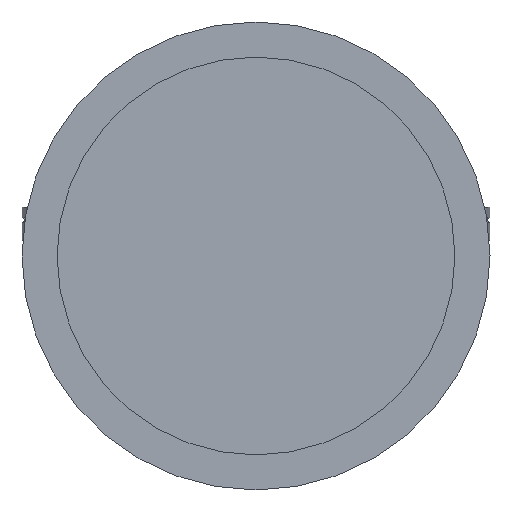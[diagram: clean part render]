
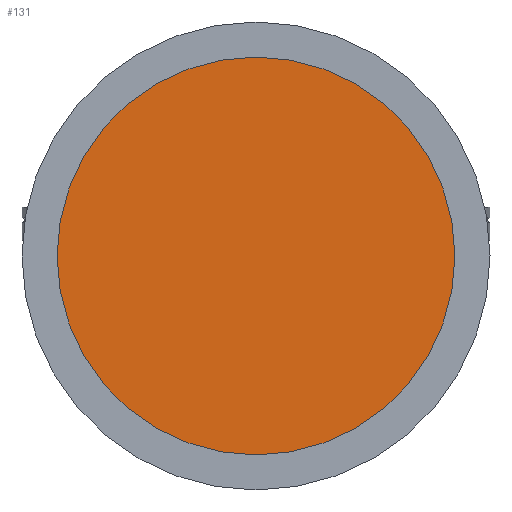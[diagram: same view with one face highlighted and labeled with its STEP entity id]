
A CAD part, left-side view. The second image highlights one B-rep face of the part: STEP entity #131.
In plain terms, the highlighted planar face has unit normal (-1, 0, 0).
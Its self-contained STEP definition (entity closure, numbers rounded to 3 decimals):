
#131 = ADVANCED_FACE( '', ( #261 ), #262, .T. );
#261 = FACE_OUTER_BOUND( '', #394, .T. );
#262 = PLANE( '', #395 );
#394 = EDGE_LOOP( '', ( #577 ) );
#395 = AXIS2_PLACEMENT_3D( '', #578, #579, #580 );
#577 = ORIENTED_EDGE( '', *, *, #679, .T. );
#578 = CARTESIAN_POINT( '', ( -95., 0., 79.5 ) );
#579 = DIRECTION( '', ( -1., 0., 0. ) );
#580 = DIRECTION( '', ( 0., 0., 1. ) );
#679 = EDGE_CURVE( '', #797, #797, #798, .T. );
#797 = VERTEX_POINT( '', #961 );
#798 = CIRCLE( '', #962, 79.5 );
#961 = CARTESIAN_POINT( '', ( -95., 0., 79.5 ) );
#962 = AXIS2_PLACEMENT_3D( '', #1061, #1062, #1063 );
#1061 = CARTESIAN_POINT( '', ( -95., 0., 0. ) );
#1062 = DIRECTION( '', ( -1., 0., 0. ) );
#1063 = DIRECTION( '', ( 0., 0., 1. ) );
